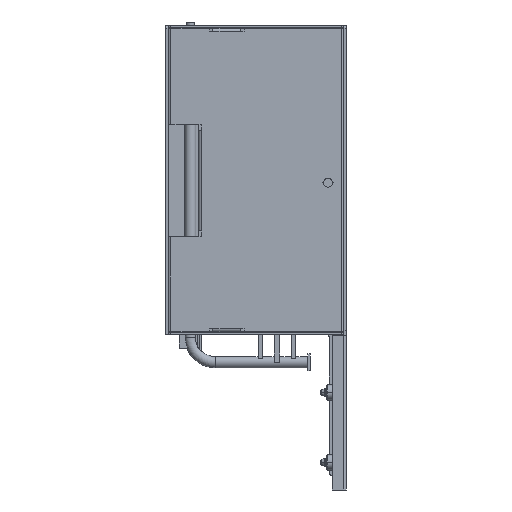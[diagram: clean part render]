
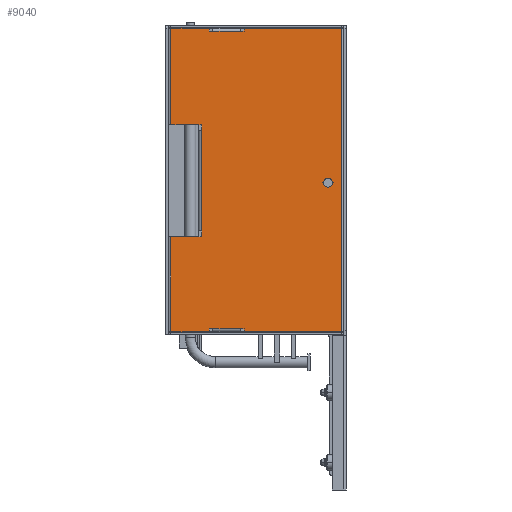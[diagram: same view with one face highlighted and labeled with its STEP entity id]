
A CAD part, left-side view. The second image highlights one B-rep face of the part: STEP entity #9040.
In plain terms, the highlighted planar face has unit normal (-1, 0, 0) as drawn and (1, 0, 0) by its records, which use the part's own axes.
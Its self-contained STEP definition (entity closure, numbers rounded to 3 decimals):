
#5619=DIRECTION('',(0.,0.,-1.));
#5620=VECTOR('',#5619,108.5);
#5621=CARTESIAN_POINT('',(7.4,1.,-1.));
#5622=LINE('',#5621,#5620);
#5637=CARTESIAN_POINT('',(7.4,5.75,-54.25));
#5638=DIRECTION('',(1.,0.,0.));
#5639=DIRECTION('',(0.,-1.,0.));
#5640=AXIS2_PLACEMENT_3D('',#5637,#5638,#5639);
#5642=CARTESIAN_POINT('',(7.4,5.75,-54.25));
#5643=DIRECTION('',(1.,0.,0.));
#5644=DIRECTION('',(0.,1.,0.));
#5645=AXIS2_PLACEMENT_3D('',#5642,#5643,#5644);
#5647=DIRECTION('',(0.,0.,1.));
#5648=VECTOR('',#5647,2.);
#5649=CARTESIAN_POINT('',(7.4,50.95,-37.));
#5650=LINE('',#5649,#5648);
#5651=DIRECTION('',(0.,0.,-1.));
#5652=VECTOR('',#5651,2.);
#5653=CARTESIAN_POINT('',(7.4,50.95,-73.));
#5654=LINE('',#5653,#5652);
#5655=DIRECTION('',(0.,-1.,0.));
#5656=VECTOR('',#5655,1.);
#5657=CARTESIAN_POINT('',(7.4,51.95,-75.));
#5658=LINE('',#5657,#5656);
#5659=DIRECTION('',(0.,-1.,0.));
#5660=VECTOR('',#5659,10.);
#5661=CARTESIAN_POINT('',(7.4,61.95,-75.));
#5662=LINE('',#5661,#5660);
#5663=DIRECTION('',(0.,1.,0.));
#5664=VECTOR('',#5663,13.8);
#5665=CARTESIAN_POINT('',(7.4,48.15,-109.5));
#5666=LINE('',#5665,#5664);
#5667=DIRECTION('',(0.,0.,1.));
#5668=VECTOR('',#5667,1.);
#5669=CARTESIAN_POINT('',(7.4,48.15,-109.5));
#5670=LINE('',#5669,#5668);
#5671=DIRECTION('',(0.,1.,0.));
#5672=VECTOR('',#5671,1.2);
#5673=CARTESIAN_POINT('',(7.4,46.95,-108.5));
#5674=LINE('',#5673,#5672);
#5675=DIRECTION('',(0.,-1.,0.));
#5676=VECTOR('',#5675,1.2);
#5677=CARTESIAN_POINT('',(7.4,36.95,-108.5));
#5678=LINE('',#5677,#5676);
#5679=DIRECTION('',(0.,0.,1.));
#5680=VECTOR('',#5679,1.);
#5681=CARTESIAN_POINT('',(7.4,35.75,-109.5));
#5682=LINE('',#5681,#5680);
#5683=DIRECTION('',(0.,1.,0.));
#5684=VECTOR('',#5683,34.75);
#5685=CARTESIAN_POINT('',(7.4,1.,-109.5));
#5686=LINE('',#5685,#5684);
#5687=DIRECTION('',(0.,-1.,0.));
#5688=VECTOR('',#5687,34.75);
#5689=CARTESIAN_POINT('',(7.4,35.75,-1.));
#5690=LINE('',#5689,#5688);
#5691=DIRECTION('',(0.,0.,-1.));
#5692=VECTOR('',#5691,1.);
#5693=CARTESIAN_POINT('',(7.4,35.75,-1.));
#5694=LINE('',#5693,#5692);
#5695=DIRECTION('',(0.,-1.,0.));
#5696=VECTOR('',#5695,1.2);
#5697=CARTESIAN_POINT('',(7.4,36.95,-2.));
#5698=LINE('',#5697,#5696);
#5699=DIRECTION('',(0.,1.,0.));
#5700=VECTOR('',#5699,1.2);
#5701=CARTESIAN_POINT('',(7.4,46.95,-2.));
#5702=LINE('',#5701,#5700);
#5703=DIRECTION('',(0.,0.,-1.));
#5704=VECTOR('',#5703,1.);
#5705=CARTESIAN_POINT('',(7.4,48.15,-1.));
#5706=LINE('',#5705,#5704);
#5707=DIRECTION('',(0.,-1.,0.));
#5708=VECTOR('',#5707,13.8);
#5709=CARTESIAN_POINT('',(7.4,61.95,-1.));
#5710=LINE('',#5709,#5708);
#5711=DIRECTION('',(0.,-1.,0.));
#5712=VECTOR('',#5711,10.);
#5713=CARTESIAN_POINT('',(7.4,61.95,-35.));
#5714=LINE('',#5713,#5712);
#5715=DIRECTION('',(0.,-1.,0.));
#5716=VECTOR('',#5715,1.);
#5717=CARTESIAN_POINT('',(7.4,51.95,-35.));
#5718=LINE('',#5717,#5716);
#5848=DIRECTION('',(0.,0.,-1.));
#5849=VECTOR('',#5848,34.);
#5850=CARTESIAN_POINT('',(7.4,61.95,-1.));
#5851=LINE('',#5850,#5849);
#5903=DIRECTION('',(0.,1.,0.));
#5904=VECTOR('',#5903,10.);
#5905=CARTESIAN_POINT('',(7.4,36.95,-2.));
#5906=LINE('',#5905,#5904);
#6181=DIRECTION('',(0.,0.,-1.));
#6182=VECTOR('',#6181,34.5);
#6183=CARTESIAN_POINT('',(7.4,61.95,-75.));
#6184=LINE('',#6183,#6182);
#6257=DIRECTION('',(0.,-1.,0.));
#6258=VECTOR('',#6257,10.);
#6259=CARTESIAN_POINT('',(7.4,46.95,-108.5));
#6260=LINE('',#6259,#6258);
#6403=DIRECTION('',(0.,0.,-1.));
#6404=VECTOR('',#6403,36.);
#6405=CARTESIAN_POINT('',(7.4,50.95,-37.));
#6406=LINE('',#6405,#6404);
#6993=CARTESIAN_POINT('',(7.4,1.,-1.));
#6994=CARTESIAN_POINT('',(7.4,1.,-109.5));
#6995=VERTEX_POINT('',#6993);
#6996=VERTEX_POINT('',#6994);
#7010=CARTESIAN_POINT('',(7.4,61.95,-109.5));
#7012=VERTEX_POINT('',#7010);
#7014=CARTESIAN_POINT('',(7.4,61.95,-1.));
#7016=VERTEX_POINT('',#7014);
#7113=CARTESIAN_POINT('',(7.4,46.95,-2.));
#7114=CARTESIAN_POINT('',(7.4,48.15,-2.));
#7115=VERTEX_POINT('',#7113);
#7116=VERTEX_POINT('',#7114);
#7117=CARTESIAN_POINT('',(7.4,48.15,-1.));
#7118=VERTEX_POINT('',#7117);
#7125=CARTESIAN_POINT('',(7.4,36.95,-2.));
#7126=CARTESIAN_POINT('',(7.4,35.75,-2.));
#7127=VERTEX_POINT('',#7125);
#7128=VERTEX_POINT('',#7126);
#7129=CARTESIAN_POINT('',(7.4,35.75,-1.));
#7130=VERTEX_POINT('',#7129);
#7153=CARTESIAN_POINT('',(7.4,36.95,-108.5));
#7154=CARTESIAN_POINT('',(7.4,35.75,-108.5));
#7155=VERTEX_POINT('',#7153);
#7156=VERTEX_POINT('',#7154);
#7157=CARTESIAN_POINT('',(7.4,35.75,-109.5));
#7158=VERTEX_POINT('',#7157);
#7165=CARTESIAN_POINT('',(7.4,46.95,-108.5));
#7166=CARTESIAN_POINT('',(7.4,48.15,-108.5));
#7167=VERTEX_POINT('',#7165);
#7168=VERTEX_POINT('',#7166);
#7169=CARTESIAN_POINT('',(7.4,48.15,-109.5));
#7170=VERTEX_POINT('',#7169);
#7409=CARTESIAN_POINT('',(7.4,4.15,-54.25));
#7410=CARTESIAN_POINT('',(7.4,7.35,-54.25));
#7411=VERTEX_POINT('',#7409);
#7412=VERTEX_POINT('',#7410);
#7469=CARTESIAN_POINT('',(7.4,61.95,-75.));
#7470=VERTEX_POINT('',#7469);
#7471=CARTESIAN_POINT('',(7.4,61.95,-35.));
#7472=VERTEX_POINT('',#7471);
#7509=CARTESIAN_POINT('',(7.4,50.95,-73.));
#7510=CARTESIAN_POINT('',(7.4,50.95,-75.));
#7511=VERTEX_POINT('',#7509);
#7512=VERTEX_POINT('',#7510);
#7513=CARTESIAN_POINT('',(7.4,51.95,-75.));
#7514=VERTEX_POINT('',#7513);
#7521=CARTESIAN_POINT('',(7.4,50.95,-37.));
#7522=CARTESIAN_POINT('',(7.4,50.95,-35.));
#7523=VERTEX_POINT('',#7521);
#7524=VERTEX_POINT('',#7522);
#7525=CARTESIAN_POINT('',(7.4,51.95,-35.));
#7526=VERTEX_POINT('',#7525);
#8980=CARTESIAN_POINT('',(7.4,0.,-109.5));
#8981=DIRECTION('',(1.,0.,0.));
#8982=DIRECTION('',(0.,0.,-1.));
#8983=AXIS2_PLACEMENT_3D('',#8980,#8981,#8982);
#8984=PLANE('',#8983);
#8986=ORIENTED_EDGE('',*,*,#8985,.F.);
#8988=ORIENTED_EDGE('',*,*,#8987,.T.);
#8990=ORIENTED_EDGE('',*,*,#8989,.T.);
#8992=ORIENTED_EDGE('',*,*,#8991,.F.);
#8994=ORIENTED_EDGE('',*,*,#8993,.F.);
#8996=ORIENTED_EDGE('',*,*,#8995,.T.);
#8998=ORIENTED_EDGE('',*,*,#8997,.F.);
#9000=ORIENTED_EDGE('',*,*,#8999,.T.);
#9002=ORIENTED_EDGE('',*,*,#9001,.F.);
#9004=ORIENTED_EDGE('',*,*,#9003,.T.);
#9006=ORIENTED_EDGE('',*,*,#9005,.T.);
#9008=ORIENTED_EDGE('',*,*,#9007,.F.);
#9010=ORIENTED_EDGE('',*,*,#9009,.F.);
#9011=ORIENTED_EDGE('',*,*,#8971,.F.);
#9013=ORIENTED_EDGE('',*,*,#9012,.F.);
#9015=ORIENTED_EDGE('',*,*,#9014,.T.);
#9017=ORIENTED_EDGE('',*,*,#9016,.F.);
#9019=ORIENTED_EDGE('',*,*,#9018,.T.);
#9021=ORIENTED_EDGE('',*,*,#9020,.T.);
#9023=ORIENTED_EDGE('',*,*,#9022,.F.);
#9025=ORIENTED_EDGE('',*,*,#9024,.F.);
#9027=ORIENTED_EDGE('',*,*,#9026,.T.);
#9029=ORIENTED_EDGE('',*,*,#9028,.T.);
#9031=ORIENTED_EDGE('',*,*,#9030,.T.);
#9032=EDGE_LOOP('',(#8986,#8988,#8990,#8992,#8994,#8996,#8998,#9000,#9002,#9004,
#9006,#9008,#9010,#9011,#9013,#9015,#9017,#9019,#9021,#9023,#9025,#9027,#9029,
#9031));
#9033=FACE_OUTER_BOUND('',#9032,.F.);
#9035=ORIENTED_EDGE('',*,*,#9034,.T.);
#9037=ORIENTED_EDGE('',*,*,#9036,.T.);
#9038=EDGE_LOOP('',(#9035,#9037));
#9039=FACE_BOUND('',#9038,.F.);
#5641=CIRCLE('',#5640,1.6);
#5646=CIRCLE('',#5645,1.6);
#8971=EDGE_CURVE('',#6995,#6996,#5622,.T.);
#8985=EDGE_CURVE('',#7523,#7524,#5650,.T.);
#8987=EDGE_CURVE('',#7523,#7511,#6406,.T.);
#8989=EDGE_CURVE('',#7511,#7512,#5654,.T.);
#8991=EDGE_CURVE('',#7514,#7512,#5658,.T.);
#8993=EDGE_CURVE('',#7470,#7514,#5662,.T.);
#8995=EDGE_CURVE('',#7470,#7012,#6184,.T.);
#8997=EDGE_CURVE('',#7170,#7012,#5666,.T.);
#8999=EDGE_CURVE('',#7170,#7168,#5670,.T.);
#9001=EDGE_CURVE('',#7167,#7168,#5674,.T.);
#9003=EDGE_CURVE('',#7167,#7155,#6260,.T.);
#9005=EDGE_CURVE('',#7155,#7156,#5678,.T.);
#9007=EDGE_CURVE('',#7158,#7156,#5682,.T.);
#9009=EDGE_CURVE('',#6996,#7158,#5686,.T.);
#9012=EDGE_CURVE('',#7130,#6995,#5690,.T.);
#9014=EDGE_CURVE('',#7130,#7128,#5694,.T.);
#9016=EDGE_CURVE('',#7127,#7128,#5698,.T.);
#9018=EDGE_CURVE('',#7127,#7115,#5906,.T.);
#9020=EDGE_CURVE('',#7115,#7116,#5702,.T.);
#9022=EDGE_CURVE('',#7118,#7116,#5706,.T.);
#9024=EDGE_CURVE('',#7016,#7118,#5710,.T.);
#9026=EDGE_CURVE('',#7016,#7472,#5851,.T.);
#9028=EDGE_CURVE('',#7472,#7526,#5714,.T.);
#9030=EDGE_CURVE('',#7526,#7524,#5718,.T.);
#9034=EDGE_CURVE('',#7411,#7412,#5641,.T.);
#9036=EDGE_CURVE('',#7412,#7411,#5646,.T.);
#9040=ADVANCED_FACE('',(#9033,#9039),#8984,.T.);
